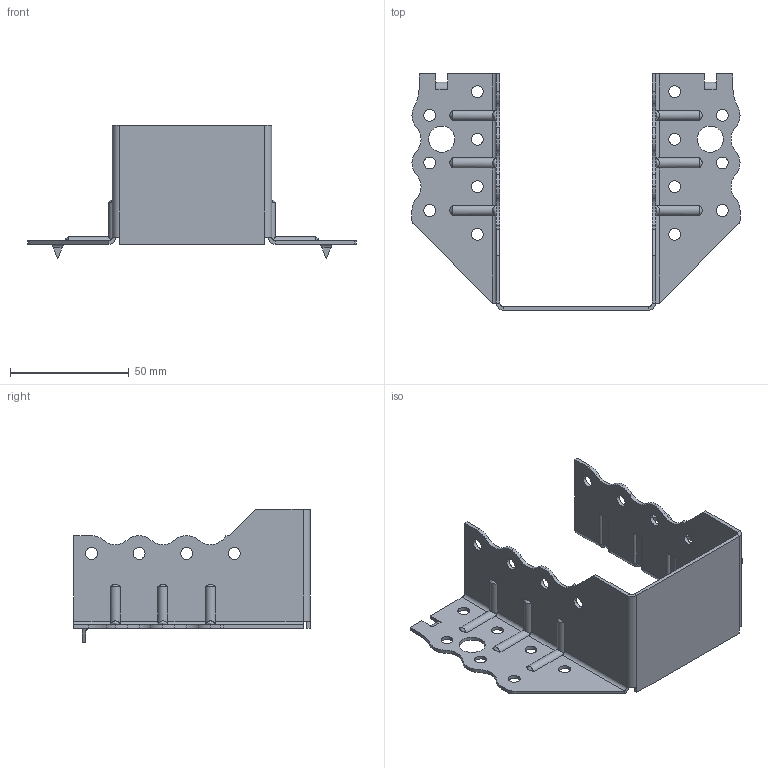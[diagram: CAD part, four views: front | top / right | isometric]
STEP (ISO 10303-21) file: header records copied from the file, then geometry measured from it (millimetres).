
FILE_DESCRIPTION (( 'STEP AP203' ), '1' );
FILE_NAME ('30604TOPK.STEP', '2021-04-08T14:10:30', ( '' ), ( '' ), 'SwSTEP 2.0', 'SolidWorks 2013', '' );
FILE_SCHEMA (( 'CONFIG_CONTROL_DESIGN' ));
Length unit declared in the file: millimetre
Products named in the file (1): 30604TOPK
Bounding box: 138 x 99.5 x 56 mm (x, y, z)
Volume: 23992.4 mm3; surface area: 34144.2 mm2
Topology: 1 solids, 1 shells, 261 faces, 685 edges, 426 vertices
Faces by surface type: cylinder 162, plane 75, torus 12, bspline 12
Entity records: 9532 total; most frequent: CARTESIAN_POINT 2999, ORIENTED_EDGE 1370, DIRECTION 1335, EDGE_CURVE 685, AXIS2_PLACEMENT_3D 486, VERTEX_POINT 426, VECTOR 363, LINE 363
